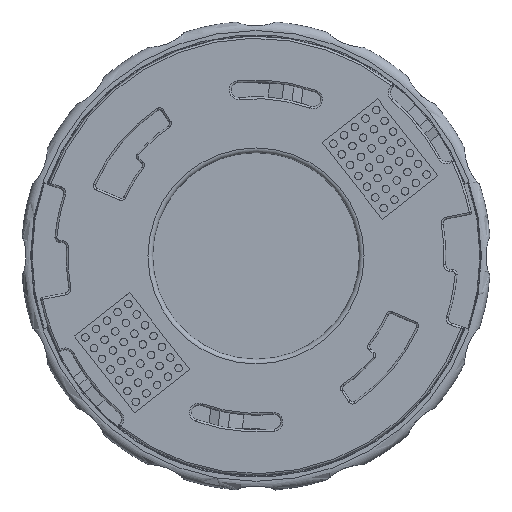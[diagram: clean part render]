
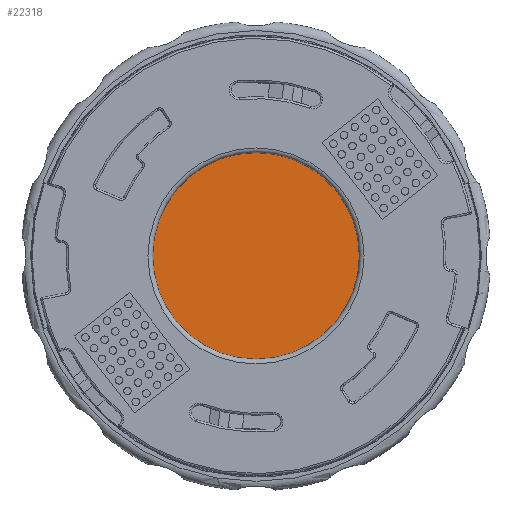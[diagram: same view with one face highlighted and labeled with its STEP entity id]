
A CAD part, top view. The second image highlights one B-rep face of the part: STEP entity #22318.
In plain terms, the highlighted planar face has unit normal (0, 0, 1).
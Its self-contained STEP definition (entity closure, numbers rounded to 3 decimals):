
#5469=ORIENTED_EDGE('',*,*,#11916,.F.);
#11916=EDGE_CURVE('',#15179,#15179,#17288,.T.);
#15179=VERTEX_POINT('',#33853);
#17288=CIRCLE('',#23674,12.75);
#18290=EDGE_LOOP('',(#5469));
#19892=FACE_BOUND('',#18290,.T.);
#21441=PLANE('',#23675);
#22318=ADVANCED_FACE('',(#19892),#21441,.T.);
#23674=AXIS2_PLACEMENT_3D('',#33852,#26215,#26216);
#23675=AXIS2_PLACEMENT_3D('',#33854,#26217,#26218);
#26215=DIRECTION('',(0.,0.,-1.));
#26216=DIRECTION('',(-1.,0.,0.));
#26217=DIRECTION('',(0.,0.,1.));
#26218=DIRECTION('',(1.,0.,0.));
#33852=CARTESIAN_POINT('',(0.,0.,5.2));
#33853=CARTESIAN_POINT('',(-12.75,0.,5.2));
#33854=CARTESIAN_POINT('',(0.,0.,5.2));
